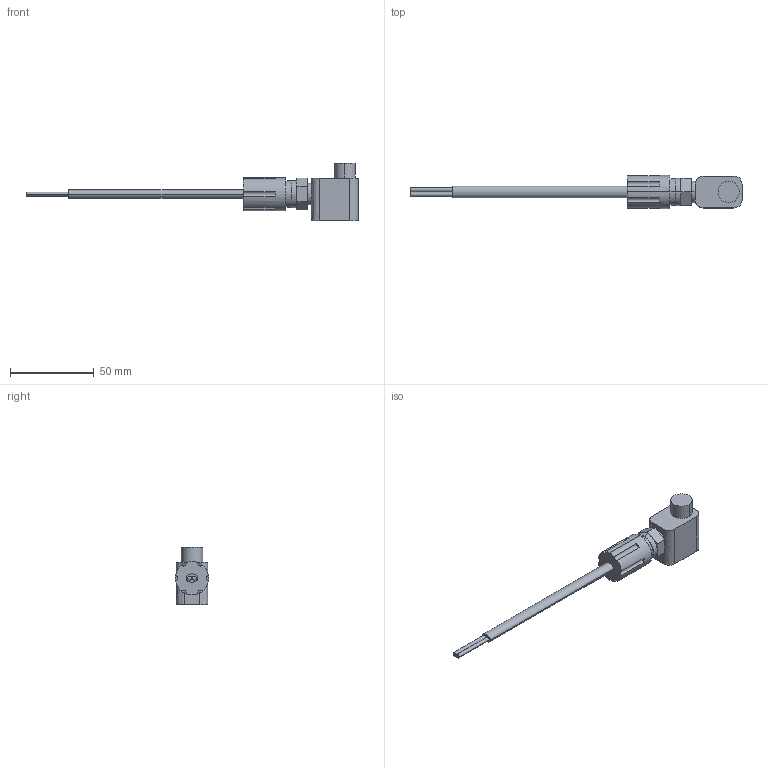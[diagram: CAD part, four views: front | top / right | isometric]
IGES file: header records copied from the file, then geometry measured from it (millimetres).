
Start section: SolidWorks IGES file using analytic representation for surfaces
Global section: file name: S:\Product Visuals\Defeatured Models\Parts Library\Control and Monitoring\Leak Detection\Fiber Optic\Fitting Leak Detect with Elbow.IGS; native system: SolidWorks 2012; preprocessor: SolidWorks 2012; author: rachel.dressel; date: 120921.112039; units: inch
Bounding box: 198.04 x 19.81 x 34.29 mm (x, y, z)
Volume: 27654.7 mm3; surface area: 8771.4 mm2
Topology: 1 solids, 1 shells, 66 faces, 160 edges, 102 vertices
Faces by surface type: plane 36, revolution 28, bspline 2
